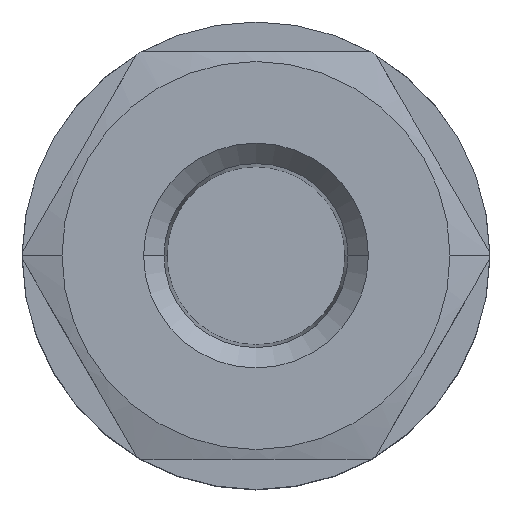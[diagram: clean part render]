
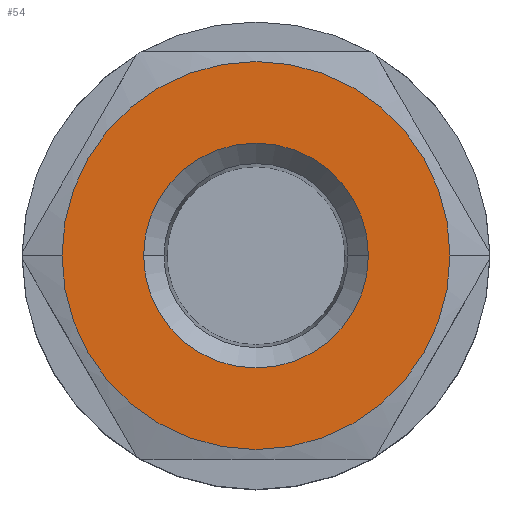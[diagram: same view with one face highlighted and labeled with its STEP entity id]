
A CAD part, top view. The second image highlights one B-rep face of the part: STEP entity #54.
In plain terms, the highlighted planar face has unit normal (0, 0, 1).
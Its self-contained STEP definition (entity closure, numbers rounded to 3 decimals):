
#54=ADVANCED_FACE('',(#250,#251),#249,.F.);
#249=PLANE('',#870);
#250=FACE_OUTER_BOUND('',#871,.T.);
#251=FACE_BOUND('',#872,.T.);
#867=CARTESIAN_POINT('',(44.85,-40.53,55.));
#868=DIRECTION('',(0.,0.,-1.));
#869=DIRECTION('',(-1.,0.,0.));
#870=AXIS2_PLACEMENT_3D('',#867,#868,#869);
#871=EDGE_LOOP('',(#1362,#1363));
#872=EDGE_LOOP('',(#1364,#1365));
#1362=ORIENTED_EDGE('',*,*,#1677,.F.);
#1363=ORIENTED_EDGE('',*,*,#1678,.F.);
#1364=ORIENTED_EDGE('',*,*,#1679,.T.);
#1365=ORIENTED_EDGE('',*,*,#1680,.T.);
#1677=EDGE_CURVE('',#2128,#2129,#2130,.T.);
#1678=EDGE_CURVE('',#2129,#2128,#2136,.T.);
#1679=EDGE_CURVE('',#2142,#2143,#2144,.T.);
#1680=EDGE_CURVE('',#2143,#2142,#2150,.T.);
#2128=VERTEX_POINT('',#3101);
#2129=VERTEX_POINT('',#3102);
#2130=CIRCLE('',#3106,19.5);
#2136=CIRCLE('',#3110,19.5);
#2142=VERTEX_POINT('',#3111);
#2143=VERTEX_POINT('',#3112);
#2144=CIRCLE('',#3116,11.3);
#2150=CIRCLE('',#3120,11.3);
#3101=CARTESIAN_POINT('',(19.5,0.,55.));
#3102=CARTESIAN_POINT('',(-19.5,0.,55.));
#3103=CARTESIAN_POINT('',(0.,0.,55.));
#3104=DIRECTION('',(0.,0.,-1.));
#3105=DIRECTION('',(-1.,0.,0.));
#3106=AXIS2_PLACEMENT_3D('',#3103,#3104,#3105);
#3107=CARTESIAN_POINT('',(0.,0.,55.));
#3108=DIRECTION('',(0.,0.,-1.));
#3109=DIRECTION('',(-1.,0.,0.));
#3110=AXIS2_PLACEMENT_3D('',#3107,#3108,#3109);
#3111=CARTESIAN_POINT('',(-11.3,0.,55.));
#3112=CARTESIAN_POINT('',(11.3,0.,55.));
#3113=CARTESIAN_POINT('',(0.,0.,55.));
#3114=DIRECTION('',(0.,0.,-1.));
#3115=DIRECTION('',(-1.,0.,0.));
#3116=AXIS2_PLACEMENT_3D('',#3113,#3114,#3115);
#3117=CARTESIAN_POINT('',(0.,0.,55.));
#3118=DIRECTION('',(0.,0.,-1.));
#3119=DIRECTION('',(-1.,0.,0.));
#3120=AXIS2_PLACEMENT_3D('',#3117,#3118,#3119);
